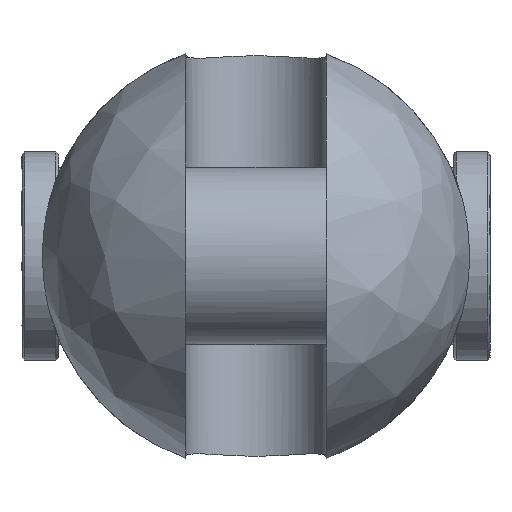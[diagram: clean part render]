
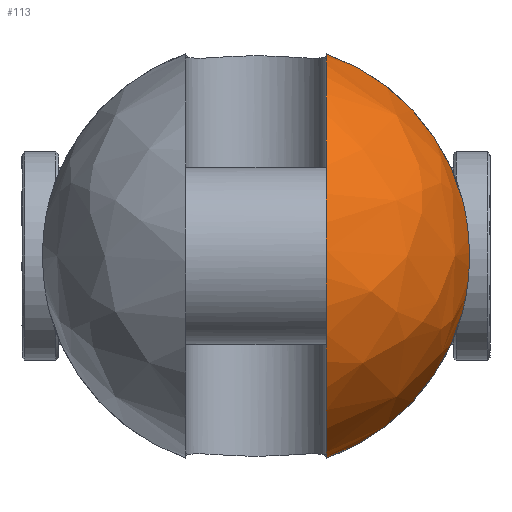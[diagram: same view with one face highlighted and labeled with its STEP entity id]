
A CAD part, left-side view. The second image highlights one B-rep face of the part: STEP entity #113.
In plain terms, the highlighted free-form (B-spline) face has degree [2, 2] with [9, 5] control points.
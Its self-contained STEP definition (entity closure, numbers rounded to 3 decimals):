
#113=ADVANCED_FACE('',(#200),#1527,.T.);
#200=FACE_OUTER_BOUND('',#299,.T.);
#299=EDGE_LOOP('',(#741,#742,#743,#744));
#741=ORIENTED_EDGE('',*,*,#998,.T.);
#742=ORIENTED_EDGE('',*,*,#995,.F.);
#743=ORIENTED_EDGE('',*,*,#1015,.T.);
#744=ORIENTED_EDGE('',*,*,#987,.F.);
#987=EDGE_CURVE('',#1418,#1419,#1249,.T.);
#995=EDGE_CURVE('',#1426,#1427,#1250,.T.);
#998=EDGE_CURVE('',#1418,#1427,#1252,.T.);
#1015=EDGE_CURVE('',#1426,#1419,#1123,.T.);
#1123=B_SPLINE_CURVE_WITH_KNOTS('',3,(#3592,#3593,#3594,#3595,#3596,#3597,
#3598,#3599,#3600,#3601,#3602,#3603,#3604,#3605),.UNSPECIFIED.,.F.,.F.,
(4,2,2,2,2,2,4),(0.,1.609,6.551,11.494,16.437,
21.379,22.988),.UNSPECIFIED.);
#1249=(
BOUNDED_CURVE()
B_SPLINE_CURVE(2,(#3442,#3443,#3444),.UNSPECIFIED.,.F.,.F.)
B_SPLINE_CURVE_WITH_KNOTS((3,3),(0.,39.7),.UNSPECIFIED.)
CURVE()
GEOMETRIC_REPRESENTATION_ITEM()
RATIONAL_B_SPLINE_CURVE((1.,0.885,1.))
REPRESENTATION_ITEM('')
);
#1250=(
BOUNDED_CURVE()
B_SPLINE_CURVE(2,(#3499,#3500,#3501),.UNSPECIFIED.,.F.,.F.)
B_SPLINE_CURVE_WITH_KNOTS((3,3),(0.,39.7),.UNSPECIFIED.)
CURVE()
GEOMETRIC_REPRESENTATION_ITEM()
RATIONAL_B_SPLINE_CURVE((1.,0.885,1.))
REPRESENTATION_ITEM('')
);
#1252=(
BOUNDED_CURVE()
B_SPLINE_CURVE(2,(#3507,#3508,#3509,#3510,#3511),.UNSPECIFIED.,.F.,.F.)
B_SPLINE_CURVE_WITH_KNOTS((3,2,3),(-121.623,-60.811,0.),
 .UNSPECIFIED.)
CURVE()
GEOMETRIC_REPRESENTATION_ITEM()
RATIONAL_B_SPLINE_CURVE((1.,0.707,1.,0.707,1.))
REPRESENTATION_ITEM('')
);
#1418=VERTEX_POINT('',#3274);
#1419=VERTEX_POINT('',#3275);
#1426=VERTEX_POINT('',#3282);
#1427=VERTEX_POINT('',#3283);
#1527=(
BOUNDED_SURFACE()
B_SPLINE_SURFACE(2,2,((#3146,#3147,#3148,#3149,#3150),(#3151,#3152,#3153,
#3154,#3155),(#3156,#3157,#3158,#3159,#3160),(#3161,#3162,#3163,#3164,#3165),
(#3166,#3167,#3168,#3169,#3170),(#3171,#3172,#3173,#3174,#3175),(#3176,
#3177,#3178,#3179,#3180),(#3181,#3182,#3183,#3184,#3185),(#3186,#3187,#3188,
#3189,#3190)),.UNSPECIFIED.,.T.,.F.,.F.)
B_SPLINE_SURFACE_WITH_KNOTS((3,2,2,2,3),(3,2,3),(0.,64.403,128.805,
193.208,257.611),(0.,64.403,128.805),
 .UNSPECIFIED.)
GEOMETRIC_REPRESENTATION_ITEM()
RATIONAL_B_SPLINE_SURFACE(((1.,0.707,1.,0.707,1.),
(0.707,0.5,0.707,0.5,0.707),(1.,0.707,
1.,0.707,1.),(0.707,0.5,0.707,0.5,0.707),
(1.,0.707,1.,0.707,1.),(0.707,0.5,0.707,
0.5,0.707),(1.,0.707,1.,0.707,1.),(0.707,
0.5,0.707,0.5,0.707),(1.,0.707,1.,0.707,
1.)))
REPRESENTATION_ITEM('')
SURFACE()
);
#3146=CARTESIAN_POINT('',(-59.,0.,0.));
#3147=CARTESIAN_POINT('',(-59.,41.,0.));
#3148=CARTESIAN_POINT('',(-18.,41.,0.));
#3149=CARTESIAN_POINT('',(23.,41.,0.));
#3150=CARTESIAN_POINT('',(23.,0.,0.));
#3151=CARTESIAN_POINT('',(-59.,0.,0.));
#3152=CARTESIAN_POINT('',(-59.,41.,41.));
#3153=CARTESIAN_POINT('',(-18.,41.,41.));
#3154=CARTESIAN_POINT('',(23.,41.,41.));
#3155=CARTESIAN_POINT('',(23.,0.,0.));
#3156=CARTESIAN_POINT('',(-59.,0.,0.));
#3157=CARTESIAN_POINT('',(-59.,0.,41.));
#3158=CARTESIAN_POINT('',(-18.,0.,41.));
#3159=CARTESIAN_POINT('',(23.,0.,41.));
#3160=CARTESIAN_POINT('',(23.,0.,0.));
#3161=CARTESIAN_POINT('',(-59.,0.,0.));
#3162=CARTESIAN_POINT('',(-59.,-41.,41.));
#3163=CARTESIAN_POINT('',(-18.,-41.,41.));
#3164=CARTESIAN_POINT('',(23.,-41.,41.));
#3165=CARTESIAN_POINT('',(23.,0.,0.));
#3166=CARTESIAN_POINT('',(-59.,0.,0.));
#3167=CARTESIAN_POINT('',(-59.,-41.,0.));
#3168=CARTESIAN_POINT('',(-18.,-41.,0.));
#3169=CARTESIAN_POINT('',(23.,-41.,0.));
#3170=CARTESIAN_POINT('',(23.,0.,0.));
#3171=CARTESIAN_POINT('',(-59.,0.,0.));
#3172=CARTESIAN_POINT('',(-59.,-41.,-41.));
#3173=CARTESIAN_POINT('',(-18.,-41.,-41.));
#3174=CARTESIAN_POINT('',(23.,-41.,-41.));
#3175=CARTESIAN_POINT('',(23.,0.,0.));
#3176=CARTESIAN_POINT('',(-59.,0.,0.));
#3177=CARTESIAN_POINT('',(-59.,0.,-41.));
#3178=CARTESIAN_POINT('',(-18.,0.,-41.));
#3179=CARTESIAN_POINT('',(23.,0.,-41.));
#3180=CARTESIAN_POINT('',(23.,0.,0.));
#3181=CARTESIAN_POINT('',(-59.,0.,0.));
#3182=CARTESIAN_POINT('',(-59.,41.,-41.));
#3183=CARTESIAN_POINT('',(-18.,41.,-41.));
#3184=CARTESIAN_POINT('',(23.,41.,-41.));
#3185=CARTESIAN_POINT('',(23.,0.,0.));
#3186=CARTESIAN_POINT('',(-59.,0.,0.));
#3187=CARTESIAN_POINT('',(-59.,41.,0.));
#3188=CARTESIAN_POINT('',(-18.,41.,0.));
#3189=CARTESIAN_POINT('',(23.,41.,0.));
#3190=CARTESIAN_POINT('',(23.,0.,0.));
#3274=CARTESIAN_POINT('',(-18.,-13.5,38.714));
#3275=CARTESIAN_POINT('',(-18.,-39.547,10.817));
#3282=CARTESIAN_POINT('',(-18.,-39.547,-10.817));
#3283=CARTESIAN_POINT('',(-18.,-13.5,-38.714));
#3442=CARTESIAN_POINT('',(-18.,-13.5,38.714));
#3443=CARTESIAN_POINT('',(-18.,-33.859,31.614));
#3444=CARTESIAN_POINT('',(-18.,-39.547,10.817));
#3499=CARTESIAN_POINT('',(-18.,-39.547,-10.817));
#3500=CARTESIAN_POINT('',(-18.,-33.859,-31.614));
#3501=CARTESIAN_POINT('',(-18.,-13.5,-38.714));
#3507=CARTESIAN_POINT('',(-18.,-13.5,38.714));
#3508=CARTESIAN_POINT('',(-56.714,-13.5,38.714));
#3509=CARTESIAN_POINT('',(-56.714,-13.5,0.));
#3510=CARTESIAN_POINT('',(-56.714,-13.5,-38.714));
#3511=CARTESIAN_POINT('',(-18.,-13.5,-38.714));
#3592=CARTESIAN_POINT('',(-18.,-39.547,-10.817));
#3593=CARTESIAN_POINT('',(-18.272,-39.671,-10.364));
#3594=CARTESIAN_POINT('',(-18.528,-39.787,-9.9));
#3595=CARTESIAN_POINT('',(-19.498,-40.225,-7.968));
#3596=CARTESIAN_POINT('',(-20.064,-40.476,-6.412));
#3597=CARTESIAN_POINT('',(-20.815,-40.809,-3.226));
#3598=CARTESIAN_POINT('',(-21.,-40.89,-1.596));
#3599=CARTESIAN_POINT('',(-21.,-40.89,1.596));
#3600=CARTESIAN_POINT('',(-20.815,-40.809,3.226));
#3601=CARTESIAN_POINT('',(-20.064,-40.476,6.412));
#3602=CARTESIAN_POINT('',(-19.498,-40.225,7.968));
#3603=CARTESIAN_POINT('',(-18.528,-39.787,9.9));
#3604=CARTESIAN_POINT('',(-18.272,-39.671,10.364));
#3605=CARTESIAN_POINT('',(-18.,-39.547,10.817));
